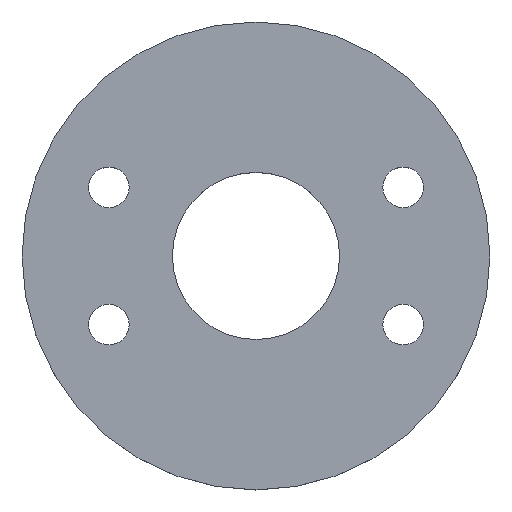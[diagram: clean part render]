
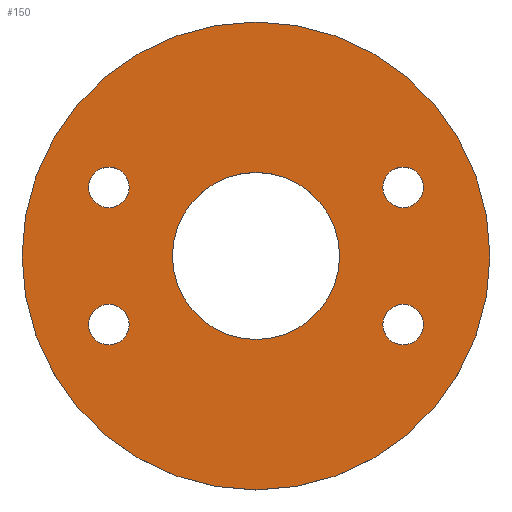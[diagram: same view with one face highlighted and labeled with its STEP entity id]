
A CAD part, top view. The second image highlights one B-rep face of the part: STEP entity #150.
In plain terms, the highlighted planar face has unit normal (0, 0, 1).
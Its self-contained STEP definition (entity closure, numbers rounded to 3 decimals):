
#15 = ORIENTED_EDGE ( 'NONE', *, *, #295, .F. ) ;
#17 = CARTESIAN_POINT ( 'NONE',  ( -61.629, -28.738, 6. ) ) ;
#22 = DIRECTION ( 'NONE',  ( 0., 0., 1. ) ) ;
#24 = DIRECTION ( 'NONE',  ( 1., 0., 0. ) ) ;
#28 = CIRCLE ( 'NONE', #73, 8.5 ) ;
#30 = AXIS2_PLACEMENT_3D ( 'NONE', #464, #470, #477 ) ;
#37 = CIRCLE ( 'NONE', #373, 35. ) ;
#38 = DIRECTION ( 'NONE',  ( 0., 0., 1. ) ) ;
#49 = AXIS2_PLACEMENT_3D ( 'NONE', #411, #425, #427 ) ;
#50 = CARTESIAN_POINT ( 'NONE',  ( 0., 0., 6. ) ) ;
#70 = EDGE_LOOP ( 'NONE', ( #80, #124 ) ) ;
#73 = AXIS2_PLACEMENT_3D ( 'NONE', #366, #392, #403 ) ;
#76 = ORIENTED_EDGE ( 'NONE', *, *, #154, .T. ) ;
#79 = AXIS2_PLACEMENT_3D ( 'NONE', #394, #466, #472 ) ;
#80 = ORIENTED_EDGE ( 'NONE', *, *, #247, .F. ) ;
#81 = EDGE_CURVE ( 'NONE', #344, #507, #266, .T. ) ;
#83 = AXIS2_PLACEMENT_3D ( 'NONE', #273, #276, #278 ) ;
#86 = VERTEX_POINT ( 'NONE', #141 ) ;
#87 = DIRECTION ( 'NONE',  ( -1., 0., 0. ) ) ;
#88 = ORIENTED_EDGE ( 'NONE', *, *, #229, .T. ) ;
#95 = ORIENTED_EDGE ( 'NONE', *, *, #447, .F. ) ;
#97 = AXIS2_PLACEMENT_3D ( 'NONE', #288, #289, #291 ) ;
#109 = VERTEX_POINT ( 'NONE', #419 ) ;
#111 = CARTESIAN_POINT ( 'NONE',  ( -61.629, 28.738, 6. ) ) ;
#113 = AXIS2_PLACEMENT_3D ( 'NONE', #111, #114, #116 ) ;
#114 = DIRECTION ( 'NONE',  ( 0., 0., 1. ) ) ;
#116 = DIRECTION ( 'NONE',  ( -1., 0., 0. ) ) ;
#119 = CARTESIAN_POINT ( 'NONE',  ( 53.129, 28.738, 6. ) ) ;
#120 = CIRCLE ( 'NONE', #184, 8.5 ) ;
#121 = AXIS2_PLACEMENT_3D ( 'NONE', #202, #206, #207 ) ;
#124 = ORIENTED_EDGE ( 'NONE', *, *, #139, .F. ) ;
#131 = AXIS2_PLACEMENT_3D ( 'NONE', #50, #459, #478 ) ;
#136 = VERTEX_POINT ( 'NONE', #545 ) ;
#137 = EDGE_LOOP ( 'NONE', ( #186, #272 ) ) ;
#139 = EDGE_CURVE ( 'NONE', #451, #285, #37, .T. ) ;
#141 = CARTESIAN_POINT ( 'NONE',  ( -53.129, 28.738, 6. ) ) ;
#148 = FACE_BOUND ( 'NONE', #160, .T. ) ;
#150 = ADVANCED_FACE ( 'NONE', ( #257, #148, #461, #537, #232, #443 ), #347, .T. ) ;
#154 = EDGE_CURVE ( 'NONE', #501, #136, #259, .T. ) ;
#158 = ORIENTED_EDGE ( 'NONE', *, *, #81, .F. ) ;
#160 = EDGE_LOOP ( 'NONE', ( #407, #15 ) ) ;
#164 = CARTESIAN_POINT ( 'NONE',  ( 53.129, -28.738, 6. ) ) ;
#167 = CARTESIAN_POINT ( 'NONE',  ( -53.129, -28.738, 6. ) ) ;
#174 = EDGE_CURVE ( 'NONE', #442, #262, #120, .T. ) ;
#184 = AXIS2_PLACEMENT_3D ( 'NONE', #17, #22, #24 ) ;
#185 = CARTESIAN_POINT ( 'NONE',  ( 61.629, -28.738, 6. ) ) ;
#186 = ORIENTED_EDGE ( 'NONE', *, *, #264, .F. ) ;
#202 = CARTESIAN_POINT ( 'NONE',  ( 0., 0., 6. ) ) ;
#206 = DIRECTION ( 'NONE',  ( 0., 0., 1. ) ) ;
#207 = DIRECTION ( 'NONE',  ( 1., 0., 0. ) ) ;
#209 = EDGE_CURVE ( 'NONE', #86, #446, #526, .T. ) ;
#229 = EDGE_CURVE ( 'NONE', #136, #501, #413, .T. ) ;
#230 = VERTEX_POINT ( 'NONE', #119 ) ;
#232 = FACE_OUTER_BOUND ( 'NONE', #312, .T. ) ;
#241 = EDGE_CURVE ( 'NONE', #230, #109, #402, .T. ) ;
#247 = EDGE_CURVE ( 'NONE', #285, #451, #310, .T. ) ;
#257 = FACE_BOUND ( 'NONE', #415, .T. ) ;
#259 = CIRCLE ( 'NONE', #311, 98. ) ;
#262 = VERTEX_POINT ( 'NONE', #296 ) ;
#264 = EDGE_CURVE ( 'NONE', #109, #230, #386, .T. ) ;
#266 = CIRCLE ( 'NONE', #482, 8.5 ) ;
#267 = CARTESIAN_POINT ( 'NONE',  ( -98., 0., 6. ) ) ;
#272 = ORIENTED_EDGE ( 'NONE', *, *, #241, .F. ) ;
#273 = CARTESIAN_POINT ( 'NONE',  ( 61.629, 28.738, 6. ) ) ;
#274 = CIRCLE ( 'NONE', #30, 8.5 ) ;
#276 = DIRECTION ( 'NONE',  ( 0., 0., 1. ) ) ;
#278 = DIRECTION ( 'NONE',  ( 1., 0., 0. ) ) ;
#285 = VERTEX_POINT ( 'NONE', #437 ) ;
#288 = CARTESIAN_POINT ( 'NONE',  ( 0., 0., 6. ) ) ;
#289 = DIRECTION ( 'NONE',  ( 0., 0., 1. ) ) ;
#291 = DIRECTION ( 'NONE',  ( 1., 0., 0. ) ) ;
#295 = EDGE_CURVE ( 'NONE', #262, #442, #274, .T. ) ;
#296 = CARTESIAN_POINT ( 'NONE',  ( -70.129, -28.738, 6. ) ) ;
#304 = DIRECTION ( 'NONE',  ( 1., 0., 0. ) ) ;
#310 = CIRCLE ( 'NONE', #97, 35. ) ;
#311 = AXIS2_PLACEMENT_3D ( 'NONE', #400, #364, #314 ) ;
#312 = EDGE_LOOP ( 'NONE', ( #76, #88 ) ) ;
#314 = DIRECTION ( 'NONE',  ( 1., 0., 0. ) ) ;
#334 = CARTESIAN_POINT ( 'NONE',  ( 35., 0., 6. ) ) ;
#337 = ORIENTED_EDGE ( 'NONE', *, *, #209, .F. ) ;
#343 = CIRCLE ( 'NONE', #79, 8.5 ) ;
#344 = VERTEX_POINT ( 'NONE', #164 ) ;
#347 = PLANE ( 'NONE',  #131 ) ;
#361 = CARTESIAN_POINT ( 'NONE',  ( -70.129, 28.738, 6. ) ) ;
#364 = DIRECTION ( 'NONE',  ( 0., 0., 1. ) ) ;
#366 = CARTESIAN_POINT ( 'NONE',  ( -61.629, 28.738, 6. ) ) ;
#373 = AXIS2_PLACEMENT_3D ( 'NONE', #421, #38, #304 ) ;
#376 = ORIENTED_EDGE ( 'NONE', *, *, #438, .F. ) ;
#386 = CIRCLE ( 'NONE', #49, 8.5 ) ;
#392 = DIRECTION ( 'NONE',  ( 0., 0., 1. ) ) ;
#394 = CARTESIAN_POINT ( 'NONE',  ( 61.629, -28.738, 6. ) ) ;
#396 = CARTESIAN_POINT ( 'NONE',  ( 70.129, -28.738, 6. ) ) ;
#400 = CARTESIAN_POINT ( 'NONE',  ( 0., 0., 6. ) ) ;
#402 = CIRCLE ( 'NONE', #83, 8.5 ) ;
#403 = DIRECTION ( 'NONE',  ( -1., 0., 0. ) ) ;
#407 = ORIENTED_EDGE ( 'NONE', *, *, #174, .F. ) ;
#411 = CARTESIAN_POINT ( 'NONE',  ( 61.629, 28.738, 6. ) ) ;
#413 = CIRCLE ( 'NONE', #121, 98. ) ;
#415 = EDGE_LOOP ( 'NONE', ( #337, #376 ) ) ;
#419 = CARTESIAN_POINT ( 'NONE',  ( 70.129, 28.738, 6. ) ) ;
#421 = CARTESIAN_POINT ( 'NONE',  ( 0., 0., 6. ) ) ;
#425 = DIRECTION ( 'NONE',  ( 0., 0., 1. ) ) ;
#427 = DIRECTION ( 'NONE',  ( 1., 0., 0. ) ) ;
#437 = CARTESIAN_POINT ( 'NONE',  ( -35., 0., 6. ) ) ;
#438 = EDGE_CURVE ( 'NONE', #446, #86, #28, .T. ) ;
#442 = VERTEX_POINT ( 'NONE', #167 ) ;
#443 = FACE_BOUND ( 'NONE', #70, .T. ) ;
#446 = VERTEX_POINT ( 'NONE', #361 ) ;
#447 = EDGE_CURVE ( 'NONE', #507, #344, #343, .T. ) ;
#451 = VERTEX_POINT ( 'NONE', #334 ) ;
#457 = DIRECTION ( 'NONE',  ( 0., 0., 1. ) ) ;
#459 = DIRECTION ( 'NONE',  ( 0., 0., 1. ) ) ;
#461 = FACE_BOUND ( 'NONE', #491, .T. ) ;
#464 = CARTESIAN_POINT ( 'NONE',  ( -61.629, -28.738, 6. ) ) ;
#466 = DIRECTION ( 'NONE',  ( 0., 0., 1. ) ) ;
#470 = DIRECTION ( 'NONE',  ( 0., 0., 1. ) ) ;
#472 = DIRECTION ( 'NONE',  ( -1., 0., 0. ) ) ;
#477 = DIRECTION ( 'NONE',  ( 1., 0., 0. ) ) ;
#478 = DIRECTION ( 'NONE',  ( 1., 0., 0. ) ) ;
#482 = AXIS2_PLACEMENT_3D ( 'NONE', #185, #457, #87 ) ;
#491 = EDGE_LOOP ( 'NONE', ( #95, #158 ) ) ;
#501 = VERTEX_POINT ( 'NONE', #267 ) ;
#507 = VERTEX_POINT ( 'NONE', #396 ) ;
#526 = CIRCLE ( 'NONE', #113, 8.5 ) ;
#537 = FACE_BOUND ( 'NONE', #137, .T. ) ;
#545 = CARTESIAN_POINT ( 'NONE',  ( 98., 0., 6. ) ) ;
